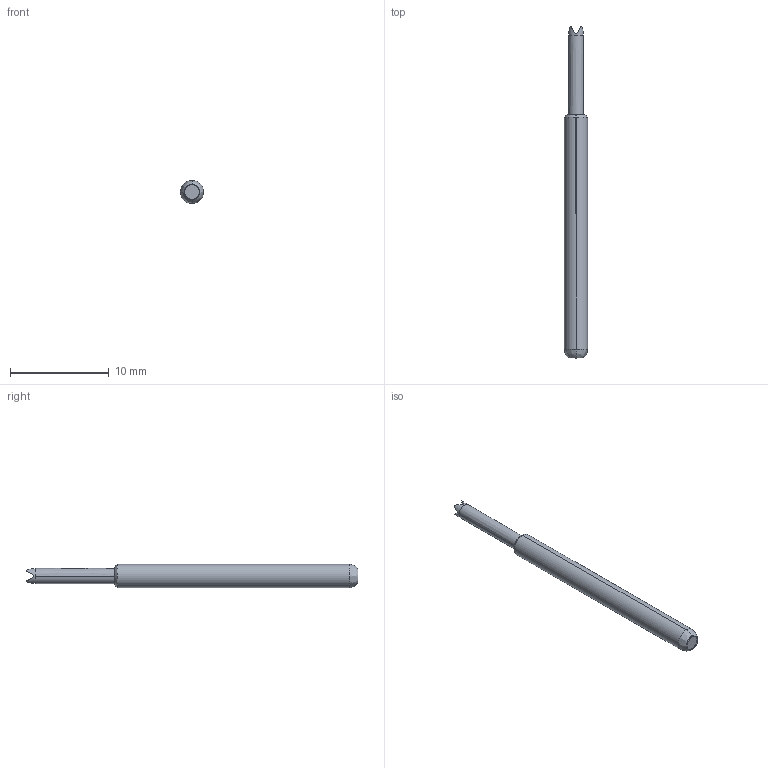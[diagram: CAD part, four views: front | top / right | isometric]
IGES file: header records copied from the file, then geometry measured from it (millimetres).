
Start section: SolidWorks IGES file using analytic representation for surfaces
Global section: file name: \\CODA-VM-SBS\RedirectedFolders\georged\My Documents\CODA CAD FILES\GENERAL PURPOSE TEST PROBES\MEDIUM REACH TEST PROBES\PA6 SERIES\PA6Q.IGS; native system: SolidWorks 2024; preprocessor: SolidWorks 2024; author: GeorgeD; date: 250326.140607; units: millimetre
Bounding box: 2.35 x 33.56 x 2.35 mm (x, y, z)
Surface area: 229.5 mm2 (no closed solid volume)
Topology: 0 solids, 0 shells, 24 faces, 170 edges, 170 vertices
Faces by surface type: bspline 13, revolution 11
